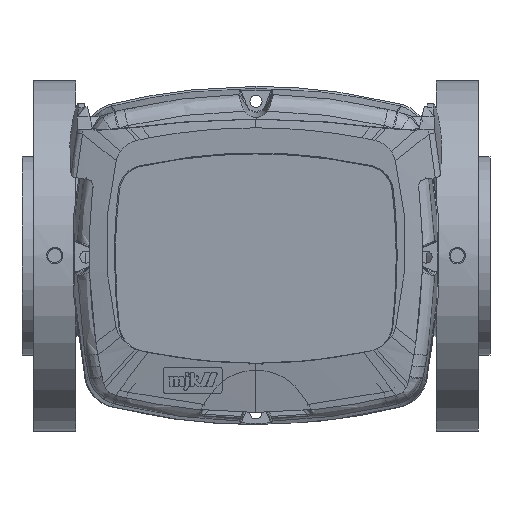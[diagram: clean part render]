
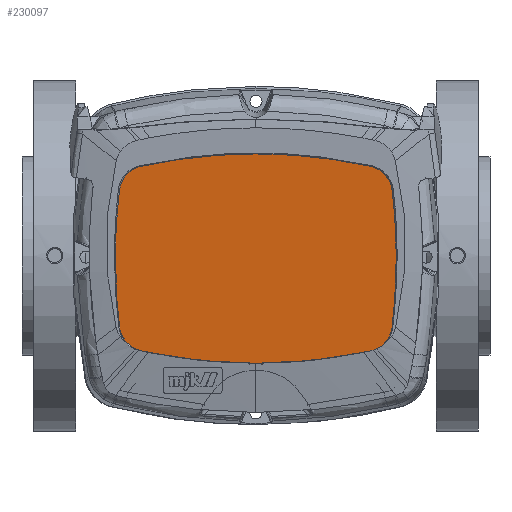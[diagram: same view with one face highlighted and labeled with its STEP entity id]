
A CAD part, top view. The second image highlights one B-rep face of the part: STEP entity #230097.
In plain terms, the highlighted planar face has unit normal (0, -0.107, 0.994) as drawn and (0, -0.064, 0.998) by its records, which use the part's own axes.
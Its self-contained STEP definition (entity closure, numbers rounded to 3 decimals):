
#221648=CARTESIAN_POINT('',(49.216,-44.38,5.882));
#221649=VERTEX_POINT('',#221648);
#221657=CARTESIAN_POINT('',(0.272,-49.704,5.541));
#221658=VERTEX_POINT('',#221657);
#221659=CARTESIAN_POINT('',(0.272,177.009,20.081));
#221660=DIRECTION('',(0.,0.064,-0.998));
#221661=DIRECTION('',(0.,-0.998,-0.064));
#221662=AXIS2_PLACEMENT_3D('',#221659,#221660,#221661);
#221663=CIRCLE('',#221662,227.179);
#221664=EDGE_CURVE('',#221649,#221658,#221663,.T.);
#229943=CARTESIAN_POINT('',(-48.671,34.747,10.957));
#229944=VERTEX_POINT('',#229943);
#229951=CARTESIAN_POINT('',(0.272,40.071,11.299));
#229952=VERTEX_POINT('',#229951);
#229953=CARTESIAN_POINT('',(0.277,-186.686,-3.245));
#229954=DIRECTION('',(0.,-0.064,0.998));
#229955=DIRECTION('',(-0.215,0.975,0.063));
#229956=AXIS2_PLACEMENT_3D('',#229953,#229954,#229955);
#229957=CIRCLE('',#229956,227.223);
#229958=EDGE_CURVE('',#229952,#229944,#229957,.T.);
#229969=CARTESIAN_POINT('',(60.272,-4.817,8.42));
#229970=DIRECTION('',(0.0,-0.064,0.998));
#229971=DIRECTION('',(1.0,0.0,0.0));
#229972=AXIS2_PLACEMENT_3D('',#229969,#229970,#229971);
#229973=PLANE('',#229972);
#229974=CARTESIAN_POINT('',(-57.971,24.484,10.299));
#229975=VERTEX_POINT('',#229974);
#229976=CARTESIAN_POINT('',(-46.094,23.093,10.21));
#229977=DIRECTION('',(0.,-0.064,0.998));
#229978=DIRECTION('',(0.601,-0.798,-0.051));
#229979=AXIS2_PLACEMENT_3D('',#229976,#229977,#229978);
#229980=ELLIPSE('',#229979,11.959,11.958);
#229981=EDGE_CURVE('',#229944,#229975,#229980,.T.);
#229982=ORIENTED_EDGE('',*,*,#229981,.T.);
#229983=CARTESIAN_POINT('',(-59.728,-4.817,8.42));
#229984=VERTEX_POINT('',#229983);
#229985=CARTESIAN_POINT('',(186.538,-4.817,8.42));
#229986=DIRECTION('',(0.,-0.064,0.998));
#229987=DIRECTION('',(-1.,0.,0.));
#229988=AXIS2_PLACEMENT_3D('',#229985,#229986,#229987);
#229989=CIRCLE('',#229988,246.265);
#229990=EDGE_CURVE('',#229975,#229984,#229989,.T.);
#229991=ORIENTED_EDGE('',*,*,#229990,.T.);
#229992=CARTESIAN_POINT('',(-48.671,-44.38,5.882));
#229993=VERTEX_POINT('',#229992);
#229994=CARTESIAN_POINT('',(-59.728,-4.817,8.42));
#229995=CARTESIAN_POINT('',(-59.728,-12.738,7.912));
#229996=CARTESIAN_POINT('',(-59.344,-20.657,7.404));
#229997=CARTESIAN_POINT('',(-58.577,-28.545,6.898));
#229998=CARTESIAN_POINT('',(-58.396,-30.406,6.778));
#229999=CARTESIAN_POINT('',(-58.194,-32.264,6.659));
#230000=CARTESIAN_POINT('',(-57.971,-34.117,6.54));
#230001=CARTESIAN_POINT('',(-57.97,-34.128,6.54));
#230002=CARTESIAN_POINT('',(-57.969,-34.139,6.539));
#230003=CARTESIAN_POINT('',(-57.967,-34.15,6.538));
#230004=CARTESIAN_POINT('',(-57.858,-35.055,6.48));
#230005=CARTESIAN_POINT('',(-57.658,-35.969,6.422));
#230006=CARTESIAN_POINT('',(-57.253,-37.016,6.354));
#230007=CARTESIAN_POINT('',(-56.951,-37.8,6.304));
#230008=CARTESIAN_POINT('',(-56.492,-38.701,6.246));
#230009=CARTESIAN_POINT('',(-55.941,-39.499,6.195));
#230010=CARTESIAN_POINT('',(-54.653,-41.363,6.076));
#230011=CARTESIAN_POINT('',(-52.821,-42.851,5.98));
#230012=CARTESIAN_POINT('',(-50.727,-43.729,5.924));
#230013=CARTESIAN_POINT('',(-50.429,-43.854,5.916));
#230014=CARTESIAN_POINT('',(-50.13,-43.965,5.909));
#230015=CARTESIAN_POINT('',(-49.817,-44.068,5.902));
#230016=CARTESIAN_POINT('',(-49.517,-44.166,5.896));
#230017=CARTESIAN_POINT('',(-49.119,-44.282,5.888));
#230018=CARTESIAN_POINT('',(-48.671,-44.38,5.882));
#230019=B_SPLINE_CURVE_WITH_KNOTS('',3,(#229994,#229995,#229996,#229997,#229998,#229999,#230000,#230001,#230002,#230003,#230004,#230005,#230006,#230007,#230008,#230009,#230010,#230011,#230012,#230013,#230014,#230015,#230016,#230017,#230018),.UNSPECIFIED.,.F.,.U.,(4,3,3,3,3,3,3,3,4),(1.361,1.767,1.863,1.864,1.911,1.946,2.027,2.039,2.05),.UNSPECIFIED.);
#230020=EDGE_CURVE('',#229984,#229993,#230019,.T.);
#230021=ORIENTED_EDGE('',*,*,#230020,.T.);
#230022=CARTESIAN_POINT('',(0.272,177.009,20.081));
#230023=DIRECTION('',(0.,-0.064,0.998));
#230024=DIRECTION('',(0.,-0.998,-0.064));
#230025=AXIS2_PLACEMENT_3D('',#230022,#230023,#230024);
#230026=CIRCLE('',#230025,227.179);
#230027=EDGE_CURVE('',#229993,#221658,#230026,.T.);
#230028=ORIENTED_EDGE('',*,*,#230027,.T.);
#230029=ORIENTED_EDGE('',*,*,#221664,.F.);
#230030=CARTESIAN_POINT('',(60.272,-4.817,8.42));
#230031=VERTEX_POINT('',#230030);
#230032=CARTESIAN_POINT('',(60.272,-4.817,8.42));
#230033=CARTESIAN_POINT('',(60.272,-9.712,8.106));
#230034=CARTESIAN_POINT('',(60.126,-14.606,7.792));
#230035=CARTESIAN_POINT('',(59.833,-19.492,7.478));
#230036=CARTESIAN_POINT('',(59.657,-22.429,7.29));
#230037=CARTESIAN_POINT('',(59.428,-25.363,7.102));
#230038=CARTESIAN_POINT('',(59.146,-28.293,6.914));
#230039=CARTESIAN_POINT('',(58.969,-30.134,6.796));
#230040=CARTESIAN_POINT('',(58.77,-31.979,6.678));
#230041=CARTESIAN_POINT('',(58.553,-33.805,6.56));
#230042=CARTESIAN_POINT('',(58.541,-33.909,6.554));
#230043=CARTESIAN_POINT('',(58.528,-34.013,6.547));
#230044=CARTESIAN_POINT('',(58.516,-34.117,6.54));
#230045=CARTESIAN_POINT('',(58.514,-34.128,6.54));
#230046=CARTESIAN_POINT('',(58.513,-34.139,6.539));
#230047=CARTESIAN_POINT('',(58.512,-34.15,6.538));
#230048=CARTESIAN_POINT('',(58.386,-35.197,6.471));
#230049=CARTESIAN_POINT('',(58.145,-36.258,6.403));
#230050=CARTESIAN_POINT('',(57.59,-37.521,6.322));
#230051=CARTESIAN_POINT('',(57.282,-38.221,6.277));
#230052=CARTESIAN_POINT('',(56.857,-38.982,6.228));
#230053=CARTESIAN_POINT('',(56.374,-39.658,6.185));
#230054=CARTESIAN_POINT('',(55.551,-40.809,6.111));
#230055=CARTESIAN_POINT('',(54.517,-41.816,6.047));
#230056=CARTESIAN_POINT('',(53.343,-42.609,5.996));
#230057=CARTESIAN_POINT('',(52.524,-43.162,5.96));
#230058=CARTESIAN_POINT('',(51.64,-43.612,5.931));
#230059=CARTESIAN_POINT('',(50.708,-43.948,5.91));
#230060=CARTESIAN_POINT('',(50.42,-44.052,5.903));
#230061=CARTESIAN_POINT('',(50.128,-44.149,5.897));
#230062=CARTESIAN_POINT('',(49.732,-44.255,5.89));
#230063=CARTESIAN_POINT('',(49.57,-44.298,5.887));
#230064=CARTESIAN_POINT('',(49.397,-44.34,5.885));
#230065=CARTESIAN_POINT('',(49.216,-44.38,5.882));
#230066=B_SPLINE_CURVE_WITH_KNOTS('',3,(#230032,#230033,#230034,#230035,#230036,#230037,#230038,#230039,#230040,#230041,#230042,#230043,#230044,#230045,#230046,#230047,#230048,#230049,#230050,#230051,#230052,#230053,#230054,#230055,#230056,#230057,#230058,#230059,#230060,#230061,#230062,#230063,#230064,#230065),.UNSPECIFIED.,.F.,.U.,(4,3,3,3,3,3,3,3,3,3,3,4),(-10.59,-8.491,-7.229,-6.437,-6.392,-6.387,-5.934,-5.684,-5.257,-4.959,-4.867,-4.829),.UNSPECIFIED.);
#230067=EDGE_CURVE('',#230031,#221649,#230066,.T.);
#230068=ORIENTED_EDGE('',*,*,#230067,.F.);
#230069=CARTESIAN_POINT('',(58.516,24.484,10.299));
#230070=VERTEX_POINT('',#230069);
#230071=CARTESIAN_POINT('',(-185.993,-4.817,8.42));
#230072=DIRECTION('',(0.,0.064,-0.998));
#230073=DIRECTION('',(1.,0.,0.));
#230074=AXIS2_PLACEMENT_3D('',#230071,#230072,#230073);
#230075=CIRCLE('',#230074,246.265);
#230076=EDGE_CURVE('',#230070,#230031,#230075,.T.);
#230077=ORIENTED_EDGE('',*,*,#230076,.F.);
#230078=CARTESIAN_POINT('',(49.216,34.747,10.957));
#230079=VERTEX_POINT('',#230078);
#230080=CARTESIAN_POINT('',(46.639,23.093,10.21));
#230081=DIRECTION('',(0.,0.064,-0.998));
#230082=DIRECTION('',(0.601,0.798,0.051));
#230083=AXIS2_PLACEMENT_3D('',#230080,#230081,#230082);
#230084=ELLIPSE('',#230083,11.959,11.958);
#230085=EDGE_CURVE('',#230079,#230070,#230084,.T.);
#230086=ORIENTED_EDGE('',*,*,#230085,.F.);
#230087=CARTESIAN_POINT('',(0.267,-186.686,-3.245));
#230088=DIRECTION('',(0.,0.064,-0.998));
#230089=DIRECTION('',(0.215,0.975,0.063));
#230090=AXIS2_PLACEMENT_3D('',#230087,#230088,#230089);
#230091=CIRCLE('',#230090,227.223);
#230092=EDGE_CURVE('',#229952,#230079,#230091,.T.);
#230093=ORIENTED_EDGE('',*,*,#230092,.F.);
#230094=ORIENTED_EDGE('',*,*,#229958,.T.);
#230095=EDGE_LOOP('',(#229982,#229991,#230021,#230028,#230029,#230068,#230077,#230086,#230093,#230094));
#230096=FACE_OUTER_BOUND('',#230095,.T.);
#230097=ADVANCED_FACE('',(#230096),#229973,.T.);
